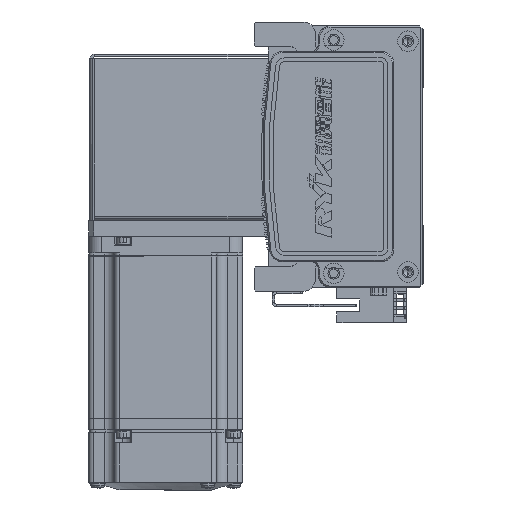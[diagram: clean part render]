
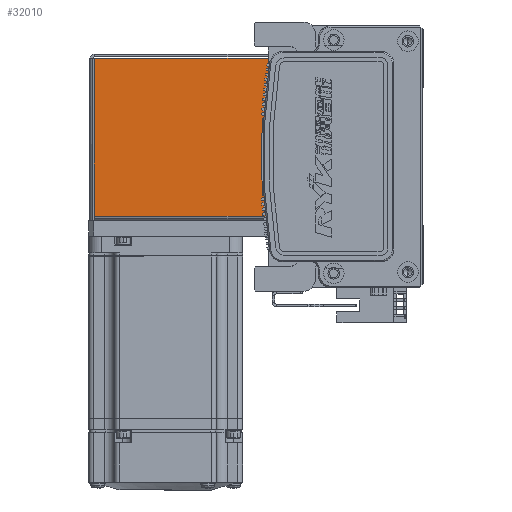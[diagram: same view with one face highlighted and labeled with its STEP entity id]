
A CAD part, left-side view. The second image highlights one B-rep face of the part: STEP entity #32010.
In plain terms, the highlighted planar face has unit normal (-1, 0, 0) as drawn and (0, 0, 1) by its records, which use the part's own axes.
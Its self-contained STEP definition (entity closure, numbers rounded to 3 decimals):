
#1284 = EDGE_CURVE ( 'NONE', #62664, #49870, #45518, .T. ) ;
#3465 = ORIENTED_EDGE ( 'NONE', *, *, #38460, .F. ) ;
#3749 = LINE ( 'NONE', #26294, #58763 ) ;
#5623 = CARTESIAN_POINT ( 'NONE',  ( 30.763, 68.5, 35. ) ) ;
#8336 = VERTEX_POINT ( 'NONE', #22122 ) ;
#15866 = CARTESIAN_POINT ( 'NONE',  ( 0., 0., 35. ) ) ;
#18253 = LINE ( 'NONE', #31605, #46222 ) ;
#19846 = ORIENTED_EDGE ( 'NONE', *, *, #34177, .F. ) ;
#21230 = CARTESIAN_POINT ( 'NONE',  ( -30.793, 0.737, 35. ) ) ;
#21397 = DIRECTION ( 'NONE',  ( 0., 1., 0. ) ) ;
#22122 = CARTESIAN_POINT ( 'NONE',  ( 30.763, 0.737, 35. ) ) ;
#22241 = CARTESIAN_POINT ( 'NONE',  ( 0., 68.5, 35. ) ) ;
#22719 = DIRECTION ( 'NONE',  ( 0., 0., -1. ) ) ;
#26294 = CARTESIAN_POINT ( 'NONE',  ( -30.793, 0., 35. ) ) ;
#26554 = CARTESIAN_POINT ( 'NONE',  ( 30.763, 0.737, 35. ) ) ;
#31605 = CARTESIAN_POINT ( 'NONE',  ( -32.5, 0.737, 35. ) ) ;
#32009 = VERTEX_POINT ( 'NONE', #21230 ) ;
#32010 = ADVANCED_FACE ( 'NONE', ( #71887 ), #39605, .F. ) ;
#32324 = DIRECTION ( 'NONE',  ( -1., 0., 0. ) ) ;
#34177 = EDGE_CURVE ( 'NONE', #8336, #32009, #18253, .T. ) ;
#34211 = DIRECTION ( 'NONE',  ( -1., 0., 0. ) ) ;
#34292 = EDGE_LOOP ( 'NONE', ( #60922, #48895, #3465, #19846 ) ) ;
#37373 = EDGE_CURVE ( 'NONE', #8336, #62664, #61493, .T. ) ;
#38460 = EDGE_CURVE ( 'NONE', #32009, #49870, #3749, .T. ) ;
#39087 = CARTESIAN_POINT ( 'NONE',  ( -30.793, 68.5, 35. ) ) ;
#39132 = DIRECTION ( 'NONE',  ( -1., 0., 0. ) ) ;
#39605 = PLANE ( 'NONE',  #40127 ) ;
#40127 = AXIS2_PLACEMENT_3D ( 'NONE', #15866, #22719, #34211 ) ;
#45518 = LINE ( 'NONE', #22241, #55985 ) ;
#46222 = VECTOR ( 'NONE', #32324, 1000. ) ;
#46628 = VECTOR ( 'NONE', #21397, 1000. ) ;
#48895 = ORIENTED_EDGE ( 'NONE', *, *, #1284, .T. ) ;
#49870 = VERTEX_POINT ( 'NONE', #39087 ) ;
#54447 = DIRECTION ( 'NONE',  ( 0., 1., 0. ) ) ;
#55985 = VECTOR ( 'NONE', #39132, 1000. ) ;
#58763 = VECTOR ( 'NONE', #54447, 1000. ) ;
#60922 = ORIENTED_EDGE ( 'NONE', *, *, #37373, .T. ) ;
#61493 = LINE ( 'NONE', #26554, #46628 ) ;
#62664 = VERTEX_POINT ( 'NONE', #5623 ) ;
#71887 = FACE_OUTER_BOUND ( 'NONE', #34292, .T. ) ;
